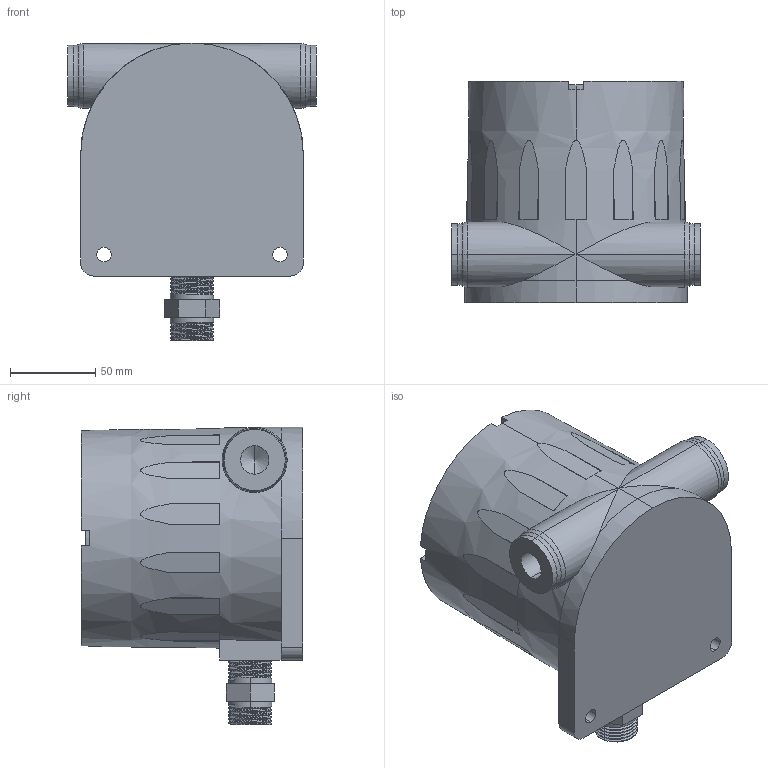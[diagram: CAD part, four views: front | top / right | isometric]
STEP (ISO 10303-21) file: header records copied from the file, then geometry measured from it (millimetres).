
FILE_DESCRIPTION (( 'STEP AP203' ), '1' );
FILE_NAME ('EXP-SNR-TG-HS2-ITS-ALG-E100.STEP', '2025-04-28T16:43:29', ( '' ), ( '' ), 'SwSTEP 2.0', 'SolidWorks 2020', '' );
FILE_SCHEMA (( 'CONFIG_CONTROL_DESIGN' ));
Length unit declared in the file: inch
Products named in the file (1): EXP-SNR-TG-HS2-ITS-ALG-E100
Bounding box: 145.8 x 129.79 x 174.75 mm (x, y, z)
Volume: 1739557.3 mm3; surface area: 108614.3 mm2
Topology: 1 solids, 2 shells, 199 faces, 497 edges, 322 vertices
Faces by surface type: plane 123, cylinder 56, cone 8, torus 8, bspline 4
Entity records: 8598 total; most frequent: CARTESIAN_POINT 3973, ORIENTED_EDGE 986, DIRECTION 877, EDGE_CURVE 493, VERTEX_POINT 322, AXIS2_PLACEMENT_3D 306, LINE 265, VECTOR 265
